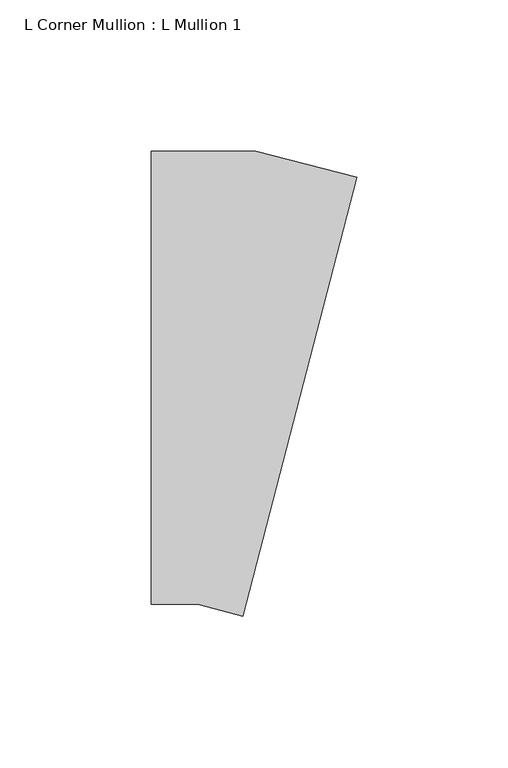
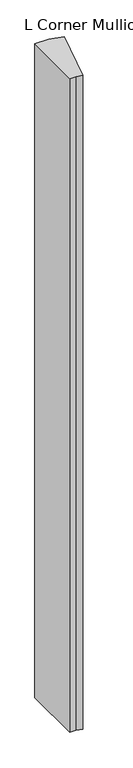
"""IFC4 building model written with IfcOpenShell, lengths in millimetres: member geometry, L Corner Mullion : L Mullion 1."""

from ifc_helpers import new_model, si_unit, frame, origin, place, context, project, spatial, polyline, outline, extrude, source, transform, mapped, element, save


def l_corner_mullion_l_mullion_1_2192a068(model_context):
    return source(origin(), model_context, "Body", "SweptSolid", [
        extrude(outline(polyline([(5.3376934, -78.876543), (-9.5834814, -75.0), (-25.0, -75.0), (-25.0, 75.0), (9.5834814, 75.0), (43.0557711, 66.3038504), (5.3376934, -78.876543)])), frame((0.0, 0.0, -1718.5036248), z_axis=(0.0, 0.0, 1.0), x_axis=(1.0, 0.0, 0.0)), (0.0, 0.0, 1.0), 1718.5036248),
    ])


if __name__ == "__main__":
    model = new_model("IFC4")
    model_context = context("Model", 3, world=origin())
    ifc_project = project(units=[si_unit("LENGTHUNIT", "METRE", prefix="MILLI")], contexts=[model_context])
    site = spatial("IfcSite", under=ifc_project)
    building = spatial("IfcBuilding", under=site)
    placement = place(None, origin())
    l_corner_mullion_l_mullion_1_shape = l_corner_mullion_l_mullion_1_2192a068(model_context)
    element("IfcMember", 1, ObjectType="L Corner Mullion : L Mullion 1", at=placement, inside=building, context=model_context, shape_type="MappedRepresentation", body=[
        mapped(l_corner_mullion_l_mullion_1_shape, transform((0.0, 0.0, 0.0), x_axis=(1.0, 0.0, 0.0), y_axis=(0.0, 1.0, 0.0), z_axis=(0.0, 0.0, 1.0))),
    ])
    save(model, "model.ifc")
